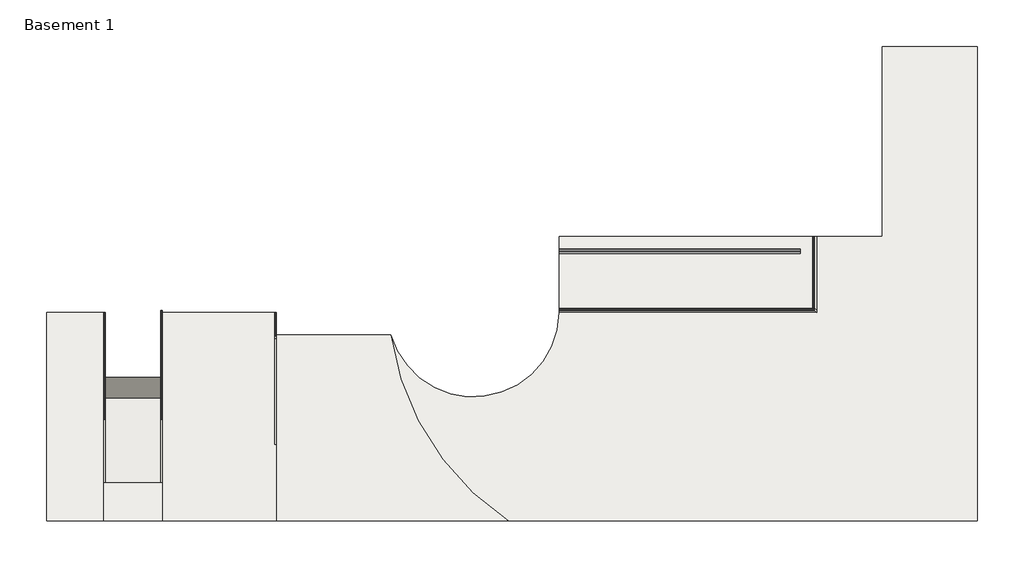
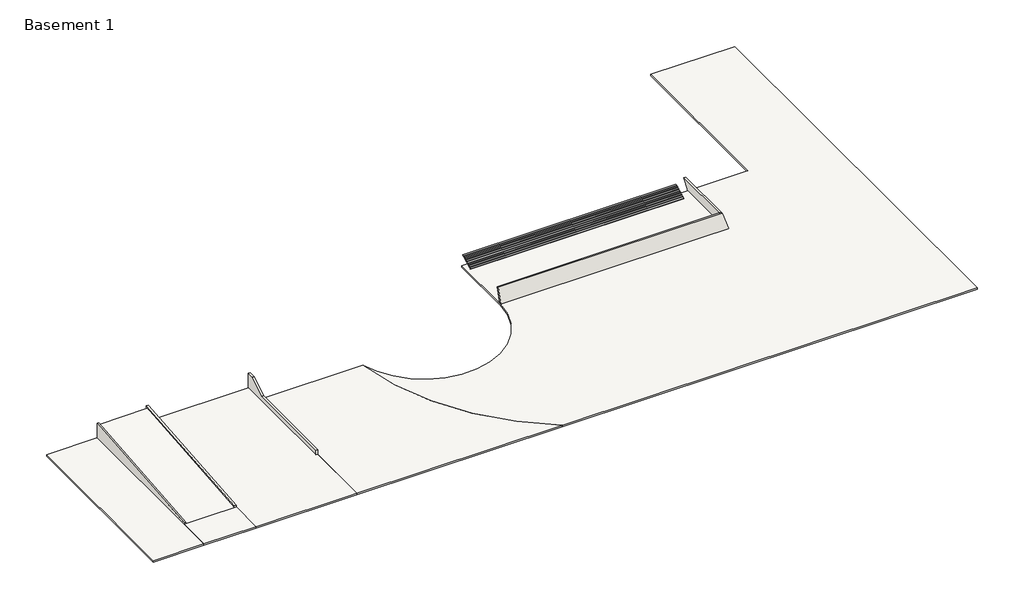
# One storey: 6 slabs, 5 walls, 1 stair flight.
"""IFC4 building model written with IfcOpenShell, lengths in millimetres."""

import ifcopenshell
import ifcopenshell.guid

model = None  # the IFC model being written
_history = None  # IfcOwnerHistory: only IFC2X3 demands one
_inside = {}  # id of a spatial element -> (the spatial element, [elements in it])
_under = {}  # id of a project, library or spatial element -> (it, [spatial elements below it])
_declared = {}  # id of a project -> (the project, [libraries it declares])
_typed = {}  # id of a type object -> (the type object, [elements of that type])
_made_of = {}  # id of a material, layer set ... -> (it, [elements and type objects made of it])


def new_model(schema):
    """Start an empty IFC model of exactly this schema.

    Asked for "IFC4X3", IfcOpenShell would pick the latest addendum, in which some entities
    have other attributes; the version numbers below select the first issue.
    IFC2X3 requires an IfcOwnerHistory on every rooted entity: one is made here for all.
    """
    global model, _history
    if schema == "IFC4X3":
        model = ifcopenshell.file(schema_version=(4, 3, 0, 0))
    else:
        model = ifcopenshell.file(schema=schema)
    _inside.clear()
    _under.clear()
    _declared.clear()
    _typed.clear()
    _made_of.clear()
    _history = None
    if model.schema == "IFC2X3":
        org = make("IfcOrganization", Name="unknown")
        user = make(
            "IfcPersonAndOrganization",
            ThePerson=make("IfcPerson", FamilyName="unknown"),
            TheOrganization=org,
        )
        app = make(
            "IfcApplication",
            ApplicationDeveloper=org,
            Version="unknown",
            ApplicationFullName="unknown",
            ApplicationIdentifier="unknown",
        )
        _history = make(
            "IfcOwnerHistory",
            OwningUser=user,
            OwningApplication=app,
            ChangeAction="ADDED",
            CreationDate=0,
        )
    return model


def make(cls, **values):
    """One entity of the class cls with the attributes given. An attribute that is None is left unset."""
    return model.create_entity(
        cls, **{name: value for name, value in values.items() if value is not None}
    )


def rooted(cls, **values):
    """An entity with a GlobalId (a new one), such as an element, a storey or a relation."""
    return make(cls, GlobalId=ifcopenshell.guid.new(), OwnerHistory=_history, **values)


def si_unit(unit_type, name, prefix=None):
    """IfcSIUnit, for example si_unit("LENGTHUNIT", "METRE", prefix="MILLI")."""
    return make("IfcSIUnit", UnitType=unit_type, Prefix=prefix, Name=name)


def assignment(units):
    """IfcUnitAssignment: the units of a project."""
    return None if units is None else make("IfcUnitAssignment", Units=units)


def point(xyz):
    """IfcCartesianPoint."""
    return None if xyz is None else make("IfcCartesianPoint", Coordinates=xyz)


def direction(xyz):
    """IfcDirection."""
    return None if xyz is None else make("IfcDirection", DirectionRatios=xyz)


def frame(location, z_axis=None, x_axis=None):
    """IfcAxis2Placement3D, a coordinate frame: its origin and axes. An axis left out is left unset."""
    return make(
        "IfcAxis2Placement3D",
        Location=point(location),
        Axis=direction(z_axis),
        RefDirection=direction(x_axis),
    )


def frame_2d(location, x_axis=None):
    """IfcAxis2Placement2D, a coordinate frame in the plane: its origin and x axis."""
    return make(
        "IfcAxis2Placement2D", Location=point(location), RefDirection=direction(x_axis)
    )


def origin():
    """The frame at (0, 0, 0) with its axes left unset."""
    return frame((0.0, 0.0, 0.0))


def place(relative_to, where):
    """IfcLocalPlacement: puts the frame where relative to a parent placement (None: the world)."""
    return make(
        "IfcLocalPlacement", PlacementRelTo=relative_to, RelativePlacement=where
    )


def context(
    kind, dimensions, precision=None, world=None, true_north=None, identifier=None
):
    """IfcGeometricRepresentationContext, for example the 3D "Model" context."""
    return make(
        "IfcGeometricRepresentationContext",
        ContextIdentifier=identifier,
        ContextType=kind,
        CoordinateSpaceDimension=dimensions,
        Precision=precision,
        WorldCoordinateSystem=world,
        TrueNorth=true_north,
    )


def project(units=None, contexts=None):
    """IfcProject with its units and contexts."""
    return rooted(
        "IfcProject",
        Name="project",
        RepresentationContexts=contexts,
        UnitsInContext=assignment(units),
    )


def spatial(cls, under=None, at=None, **own):
    """A site, building, storey or space (cls), placed at a placement, below another one or the project."""
    s = rooted(cls, ObjectPlacement=at, **own)
    if under is not None:
        _under.setdefault(under.id(), (under, []))[1].append(s)
    return s


def polyline(points):
    """IfcPolyline through the points."""
    return make("IfcPolyline", Points=[point(p) for p in points])


def circle_curve(where, radius):
    """IfcCircle in the frame where."""
    return make("IfcCircle", Position=where, Radius=radius)


def ellipse_curve(where, semi_axis1, semi_axis2):
    """IfcEllipse in the frame where."""
    return make(
        "IfcEllipse", Position=where, SemiAxis1=semi_axis1, SemiAxis2=semi_axis2
    )


def trimmed(basis, trim1, trim2, sense, master):
    """IfcTrimmedCurve: the piece of a basis curve between two trims."""
    return make(
        "IfcTrimmedCurve",
        BasisCurve=basis,
        Trim1=trim1,
        Trim2=trim2,
        SenseAgreement=sense,
        MasterRepresentation=master,
    )


def segment(curve, same_sense, transition):
    """IfcCompositeCurveSegment."""
    return make(
        "IfcCompositeCurveSegment",
        Transition=transition,
        SameSense=same_sense,
        ParentCurve=curve,
    )


def composite_curve(segments, self_intersect=None):
    """IfcCompositeCurve: segments joined end to end."""
    return make("IfcCompositeCurve", Segments=segments, SelfIntersect=self_intersect)


def outline(outer, holes=None, kind="AREA"):
    """IfcArbitraryClosedProfileDef: a profile drawn as a closed curve; with holes, ...WithVoids."""
    if holes is None:
        return make("IfcArbitraryClosedProfileDef", ProfileType=kind, OuterCurve=outer)
    return make(
        "IfcArbitraryProfileDefWithVoids",
        ProfileType=kind,
        OuterCurve=outer,
        InnerCurves=holes,
    )


def extrude(swept, where, along, depth):
    """IfcExtrudedAreaSolid: the profile swept, set in the frame where, extruded along a direction by depth."""
    return make(
        "IfcExtrudedAreaSolid",
        SweptArea=swept,
        Position=where,
        ExtrudedDirection=direction(along),
        Depth=depth,
    )


def faces_of(points, faces, orient=None, outer=None):
    """IfcFace entities. A face is a list of loops; a loop is a list of indices into points, from 0.

    orient and outer hold one flag for each loop. By default every Orientation is true, the
    first loop of a face is its IfcFaceOuterBound and the others are IfcFaceBound.
    """
    made = []
    for i, loops in enumerate(faces):
        bounds = []
        for j, loop in enumerate(loops):
            is_outer = j == 0 if outer is None else outer[i][j]
            bounds.append(
                make(
                    "IfcFaceOuterBound" if is_outer else "IfcFaceBound",
                    Bound=make("IfcPolyLoop", Polygon=[points[k] for k in loop]),
                    Orientation=True if orient is None else orient[i][j],
                )
            )
        made.append(make("IfcFace", Bounds=bounds))
    return made


def faceted_brep(points, faces, orient=None, outer=None, voids=None):
    """IfcFacetedBrep: a solid bounded by flat faces; with voids (closed shells), ...WithVoids."""
    shared = [point(p) for p in points]
    hull = make("IfcClosedShell", CfsFaces=faces_of(shared, faces, orient, outer))
    if voids is None:
        return make("IfcFacetedBrep", Outer=hull)
    return make(
        "IfcFacetedBrepWithVoids",
        Outer=hull,
        Voids=[
            make(cls, CfsFaces=faces_of(shared, fs, o, b)) for cls, fs, o, b in voids
        ],
    )


def shape(context_of_items, identifier, shape_type, items):
    """IfcShapeRepresentation: the items that make up one representation, for example the "Body"."""
    return make(
        "IfcShapeRepresentation",
        ContextOfItems=context_of_items,
        RepresentationIdentifier=identifier,
        RepresentationType=shape_type,
        Items=items,
    )


def made_of(thing, what):
    """Note that an element or type object is made of a material, layer set ...; save() writes the relation."""
    if what is not None:
        _made_of.setdefault(what.id(), (what, []))[1].append(thing)
    return thing


def element(
    cls,
    number,
    at=None,
    inside=None,
    cuts=None,
    type_object=None,
    material=None,
    context=None,
    identifier="Body",
    shape_type=None,
    held_by="IfcProductDefinitionShape",
    body=None,
    shapes=None,
    **own,
):
    """One element of the class cls, such as IfcWall. Its Tag is "e" and its number.

    at: its placement. inside: the storey or other place that contains it. cuts: it is an
    opening in that element (IfcRelVoidsElement). A single representation is given by context,
    identifier, shape_type and body (its items); several are given by shapes. held_by: the class
    of the entity that holds the representations. save() writes the other relations.
    """
    e = rooted(cls, Tag="e%d" % number, ObjectPlacement=at, **own)
    if body is not None:
        shapes = [shape(context, identifier, shape_type, body)]
    if shapes is not None:
        e.Representation = make(held_by, Representations=shapes)
    if inside is not None:
        _inside.setdefault(inside.id(), (inside, []))[1].append(e)
    if cuts is not None:
        rooted(
            "IfcRelVoidsElement", RelatingBuildingElement=cuts, RelatedOpeningElement=e
        )
    if type_object is not None:
        _typed.setdefault(type_object.id(), (type_object, []))[1].append(e)
    return made_of(e, material)


def aggregate(whole, parts):
    """IfcRelAggregates: a whole, such as a stair, and the parts it consists of."""
    return rooted("IfcRelAggregates", RelatingObject=whole, RelatedObjects=parts)


def save(model, path):
    """Write the relations noted so far, then the file.

    IfcRelAggregates (storeys below a building ...), IfcRelContainedInSpatialStructure (elements
    in a storey), IfcRelDefinesByType, IfcRelAssociatesMaterial and IfcRelDeclares: one each for
    every whole, place, type object, material and project.
    """
    for whole, parts in _under.values():
        aggregate(whole, parts)
    for where, things in _inside.values():
        rooted(
            "IfcRelContainedInSpatialStructure",
            RelatedElements=things,
            RelatingStructure=where,
        )
    for kind, things in _typed.values():
        rooted("IfcRelDefinesByType", RelatedObjects=things, RelatingType=kind)
    for what, things in _made_of.values():
        rooted("IfcRelAssociatesMaterial", RelatedObjects=things, RelatingMaterial=what)
    for by, libraries in _declared.values():
        rooted("IfcRelDeclares", RelatingContext=by, RelatedDefinitions=libraries)
    model.write(path)


def plane_surface(at):
    """IfcPlane: the flat surface through the origin of the frame at, square to its z axis."""
    return make("IfcPlane", Position=at)


def revolved_surface(curve, axis_point, axis_direction):
    """IfcSurfaceOfRevolution: the curve turned about the line through axis_point along axis_direction."""
    return make(
        "IfcSurfaceOfRevolution",
        SweptCurve=make("IfcArbitraryOpenProfileDef", ProfileType="CURVE", Curve=curve),
        AxisPosition=make("IfcAxis1Placement", Location=point(axis_point), Axis=direction(axis_direction)),
    )


def advanced_brep(points, edges, surfaces, faces):
    """IfcAdvancedBrep: a solid bounded by faces that lie on surfaces and meet in shared edges.

    An edge is (start, end): straight between two places in points (the first is 0);
    or (start, end, curve); or (start, end, curve, False) where it runs against its curve.
    A face is (place in surfaces, loops), or (place, loops, False) where it looks against
    its surface's normal. A loop lists edges by number (the first is 1), with a minus sign
    where the edge is run from its end to its start. The first loop is the outer one.
    """
    corners = [point(p) for p in points]
    vertices = [make("IfcVertexPoint", VertexGeometry=c) for c in corners]
    made = []
    for start, end, *more in edges:
        made.append(
            make(
                "IfcEdgeCurve",
                EdgeStart=vertices[start],
                EdgeEnd=vertices[end],
                EdgeGeometry=more[0] if more else make("IfcPolyline", Points=[corners[start], corners[end]]),
                SameSense=more[1] if len(more) > 1 else True,
            )
        )
    hull = []
    for where, loops, *sense in faces:
        bounds = []
        for j, loop in enumerate(loops):
            ring = [make("IfcOrientedEdge", EdgeElement=made[abs(k) - 1], Orientation=k > 0) for k in loop]
            bounds.append(
                make(
                    "IfcFaceOuterBound" if j == 0 else "IfcFaceBound",
                    Bound=make("IfcEdgeLoop", EdgeList=ring),
                    Orientation=True,
                )
            )
        hull.append(make("IfcAdvancedFace", Bounds=bounds, FaceSurface=surfaces[where], SameSense=sense[0] if sense else True))
    return make("IfcAdvancedBrep", Outer=make("IfcClosedShell", CfsFaces=hull))


model = new_model("IFC4")

# Units and contexts
model_context = context("Model", 3, world=origin())
ifc_project = project(units=[si_unit("LENGTHUNIT", "METRE", prefix="MILLI")], contexts=[model_context])

# Site, building, storey
site = spatial("IfcSite", under=ifc_project)
building = spatial("IfcBuilding", under=site)
storey = spatial("IfcBuildingStorey", under=building, Name="Basement 1", Elevation=-2590.8)

# Slabs
placement = place(None, origin())
element("IfcSlab", 1, ObjectType="a_drive", at=placement, inside=storey, context=model_context, shape_type="SweptSolid", body=[
    extrude(outline(polyline([(19188.911889, -458.4117136), (-8130.1793721, -2896.8117136), (-8130.1793721, -2590.8), (19188.911889, -152.4), (19188.911889, -458.4117136)])), frame((-52722.4307976, 0.0, 0.0), z_axis=(1.0, 0.0, 0.0), x_axis=(0.0, 1.0, 0.0)), (0.0, 0.0, 1.0), 8839.2),
])
element("IfcSlab", 2, ObjectType="a_drive", at=placement, inside=storey, context=model_context, shape_type="SweptSolid", body=[
    extrude(outline(polyline([(-53027.2307976, -8130.1793721), (-43578.4307976, -8130.1793721), (-43578.4307976, -14339.088111), (-53027.2307976, -14339.088111), (-53027.2307976, -8130.1793721)])), frame((0.0, 0.0, -2895.6), z_axis=(0.0, 0.0, 1.0), x_axis=(1.0, 0.0, 0.0)), (0.0, 0.0, 1.0), 304.8),
])
element("IfcSlab", 3, ObjectType="a_site field", at=placement, inside=storey, context=model_context, shape_type="SweptSolid", body=[
    extrude(outline(composite_curve([segment(polyline([(20124.7692024, 31380.911889), (71940.7692024, 31380.911889), (71940.7692024, 61860.911889), (87180.7692024, 61860.911889), (87180.7692024, -14339.088111), (11898.6110424, -14339.088111)]), True, "CONTINUOUS"), segment(trimmed(circle_curve(frame_2d((35078.8556976, 21137.4265857)), 42378.1410317), [point((11898.6110424, -14339.088111))], [point((-6930.2202358, 15556.7118891))], False, "CARTESIAN"), True, "CONTINUOUS"), segment(trimmed(circle_curve(frame_2d((6325.7581451, 19397.6292514)), 13801.2176644), [point((-6930.2202358, 15556.7118891))], [point((20124.7692024, 19150.8442002))], True, "CARTESIAN"), True, "CONTINUOUS"), segment(polyline([(20124.7692024, 19150.8442002), (20124.7692024, 31380.911889)]), True, "CONTINUOUS")], self_intersect=False)), frame((0.0, 0.0, -2895.6), z_axis=(0.0, 0.0, 1.0), x_axis=(1.0, 0.0, 0.0)), (0.0, 0.0, 1.0), 304.8),
])
element("IfcSlab", 4, ObjectType="a_site field", at=placement, inside=storey, context=model_context, shape_type="SweptSolid", body=[
    extrude(outline(polyline([(-62171.2307976, 19188.911889), (-53027.2307976, 19188.911889), (-53027.2307976, -14339.088111), (-62171.2307976, -14339.088111), (-62171.2307976, 19188.911889)])), frame((0.0, 0.0, -2895.6), z_axis=(0.0, 0.0, 1.0), x_axis=(1.0, 0.0, 0.0)), (0.0, 0.0, 1.0), 304.8),
])
element("IfcSlab", 5, ObjectType="a_site field", at=placement, inside=storey, context=model_context, shape_type="SweptSolid", body=[
    extrude(outline(polyline([(-43578.4307976, 19188.911889), (-25290.4307976, 19188.911889), (-25290.4307976, -14339.088111), (-43578.4307976, -14339.088111), (-43578.4307976, 19188.911889)])), frame((0.0, 0.0, -2895.6), z_axis=(0.0, 0.0, 1.0), x_axis=(1.0, 0.0, 0.0)), (0.0, 0.0, 1.0), 304.8),
])
element("IfcSlab", 6, ObjectType="a_site paving", at=placement, inside=storey, context=model_context, shape_type="SweptSolid", body=[
    extrude(outline(composite_curve([segment(polyline([(-25290.4307976, 15556.711889), (-6930.2202358, 15556.711889)]), True, "CONTINUOUS"), segment(trimmed(circle_curve(frame_2d((35907.4785274, 21659.3058951)), 43270.1986236), [point((-6930.2202358, 15556.711889))], [point((11898.6110424, -14339.088111))], True, "CARTESIAN"), True, "CONTINUOUS"), segment(polyline([(11898.6110424, -14339.088111), (-25290.4307976, -14339.088111), (-25290.4307976, 15556.711889)]), True, "CONTINUOUS")], self_intersect=False)), frame((0.0, 0.0, -2895.6), z_axis=(0.0, 0.0, 1.0), x_axis=(1.0, 0.0, 0.0)), (0.0, 0.0, 1.0), 304.8),
])

# Stair flight
element("IfcStairFlight", 7, ObjectType="3/4\" Nosing", at=placement, inside=storey, context=model_context, shape_type="Brep", body=[
    faceted_brep([(58732.7692024, 28637.711889, -1507.0666667), (20124.7692024, 28637.711889, -1507.0666667), (20124.7692024, 28656.761889, -1676.4), (58732.7692024, 28656.761889, -1676.4), (58732.7692024, 28961.561889, -1507.0666667), (20124.7692024, 28961.561889, -1507.0666667), (20124.7692024, 28961.561889, -1579.7080571), (20124.7692024, 28787.5163918, -1676.4), (58732.7692024, 28787.5163918, -1676.4), (58732.7692024, 28961.561889, -1579.7080571), (20124.7692024, 28942.511889, -1337.7333333), (58732.7692024, 28942.511889, -1337.7333333), (58732.7692024, 29266.361889, -1337.7333333), (20124.7692024, 29266.361889, -1337.7333333), (20124.7692024, 29266.361889, -1410.3747238), (58732.7692024, 29266.361889, -1410.3747238), (20124.7692024, 29571.161889, -1241.0413904), (20124.7692024, 29875.961889, -1071.7080571), (20124.7692024, 30180.761889, -902.3747238), (20124.7692024, 30485.561889, -733.0413904), (20124.7692024, 30790.361889, -563.7080571), (20124.7692024, 31076.111889, -404.9580571), (58732.7692024, 31076.111889, -404.9580571), (58732.7692024, 30790.361889, -563.7080571), (58732.7692024, 30485.561889, -733.0413904), (58732.7692024, 30180.761889, -902.3747238), (58732.7692024, 29875.961889, -1071.7080571), (58732.7692024, 29571.161889, -1241.0413904), (20124.7692024, 29247.311889, -1168.4), (58732.7692024, 29247.311889, -1168.4), (58732.7692024, 29571.161889, -1168.4), (20124.7692024, 29571.161889, -1168.4), (20124.7692024, 29552.111889, -999.0666667), (58732.7692024, 29552.111889, -999.0666667), (58732.7692024, 29875.961889, -999.0666667), (20124.7692024, 29875.961889, -999.0666667), (20124.7692024, 29856.911889, -829.7333333), (58732.7692024, 29856.911889, -829.7333333), (58732.7692024, 30180.761889, -829.7333333), (20124.7692024, 30180.761889, -829.7333333), (20124.7692024, 30161.711889, -660.4), (58732.7692024, 30161.711889, -660.4), (58732.7692024, 30485.561889, -660.4), (20124.7692024, 30485.561889, -660.4), (20124.7692024, 30466.511889, -491.0666667), (58732.7692024, 30466.511889, -491.0666667), (58732.7692024, 30790.361889, -491.0666667), (20124.7692024, 30790.361889, -491.0666667), (20124.7692024, 30771.311889, -321.7333333), (58732.7692024, 30771.311889, -321.7333333), (58732.7692024, 31076.111889, -321.7333333), (20124.7692024, 31076.111889, -321.7333333)], [[[0, 1, 2, 3]], [[1, 0, 4, 5]], [[1, 5, 6, 7, 2]], [[4, 0, 3, 8, 9]], [[10, 11, 12, 13]], [[10, 13, 14, 6, 5]], [[12, 11, 4, 9, 15]], [[5, 4, 11, 10]], [[3, 2, 7, 8]], [[8, 7, 6, 14, 16, 17, 18, 19, 20, 21, 22, 23, 24, 25, 26, 27, 15, 9]], [[28, 29, 30, 31]], [[28, 31, 16, 14, 13]], [[30, 29, 12, 15, 27]], [[13, 12, 29, 28]], [[32, 33, 34, 35]], [[32, 35, 17, 16, 31]], [[34, 33, 30, 27, 26]], [[31, 30, 33, 32]], [[36, 37, 38, 39]], [[36, 39, 18, 17, 35]], [[38, 37, 34, 26, 25]], [[35, 34, 37, 36]], [[40, 41, 42, 43]], [[40, 43, 19, 18, 39]], [[42, 41, 38, 25, 24]], [[39, 38, 41, 40]], [[44, 45, 46, 47]], [[44, 47, 20, 19, 43]], [[46, 45, 42, 24, 23]], [[43, 42, 45, 44]], [[48, 49, 50, 51]], [[48, 51, 21, 20, 47]], [[50, 49, 46, 23, 22]], [[51, 50, 22, 21]], [[47, 46, 49, 48]]]),
])

# Walls
element("IfcWall", 8, ObjectType="Generic - 12\"", at=placement, inside=storey, context=model_context, shape_type="Brep", body=[
    faceted_brep([(-52722.4307976, -8130.1793721, -2590.8), (-52722.4307976, 19188.911889, -2590.8), (-52722.4307976, 19188.911889, 152.4), (-52722.4307976, 19188.911889, 153.6117136), (-52722.4307976, -8130.1793721, -2284.7882864), (-53027.2307976, -8130.1793721, -2590.8), (-53027.2307976, -8130.1793721, -2284.7882864), (-53027.2307976, 19188.911889, 153.6117136), (-53027.2307976, 19188.911889, -2590.8)], [[[0, 1, 2, 3, 4]], [[5, 6, 7, 8]], [[1, 0, 5, 8]], [[4, 3, 7, 6]], [[0, 4, 6, 5]], [[3, 2, 1, 8, 7]]]),
])
element("IfcWall", 9, ObjectType="Generic - 12\"", at=placement, inside=storey, context=model_context, shape_type="Brep", body=[
    faceted_brep([(-43578.4307976, -8130.1793721, -2590.8), (-43578.4307976, 19493.711889, -2590.8), (-43578.4307976, 19493.711889, -152.4), (-43578.4307976, 19493.711889, 152.4), (-43578.4307976, 19493.711889, 180.8170226), (-43578.4307976, -8130.1793721, -2284.7882864), (-43883.2307976, -8130.1793721, -2590.8), (-43883.2307976, -8130.1793721, -2284.7882864), (-43883.2307976, 19493.711889, 180.8170226), (-43883.2307976, 19493.711889, 152.4), (-43883.2307976, 19493.711889, -152.4), (-43883.2307976, 19493.711889, -2590.8)], [[[0, 1, 2, 3, 4, 5]], [[6, 7, 8, 9, 10, 11]], [[1, 0, 6, 11]], [[5, 4, 8, 7]], [[0, 5, 7, 6]], [[4, 3, 2, 1, 11, 10, 9, 8]]]),
])
element("IfcWall", 10, ObjectType="Generic - 12\"", at=placement, inside=storey, context=model_context, shape_type="SweptSolid", body=[
    extrude(outline(polyline([(-2034.1793721, -2590.8), (-2034.1793721, -1676.4), (14963.2558665, -1676.4), (17896.9558665, 152.4), (19188.911889, 152.4), (19188.911889, -2590.8), (-2034.1793721, -2590.8)])), frame((-25595.2307976, 0.0, 0.0), z_axis=(1.0, 0.0, 0.0), x_axis=(0.0, 1.0, 0.0)), (0.0, 0.0, 1.0), 304.8),
])
element("IfcWall", 11, ObjectType="a_panel enamel", at=placement, inside=storey, context=model_context, shape_type="AdvancedBrep", body=[
    advanced_brep(
    [(61430.5452923, 19499.0879789, -2590.8), (61430.5452923, 19183.5357991, -2590.8), (20123.8667318, 19183.5357991, -2590.8), (20124.7692024, 19341.311889, -2590.8), (20124.7692024, 19499.0879789, -2590.8), (61114.9931125, 19499.0879789, -2590.8), (60695.5070676, 20234.1262036, 152.4), (20124.7692024, 20234.1262036, 152.4), (60379.9548878, 20234.1262036, 152.4), (60695.5070676, 19918.5740238, 152.4), (20124.7692024, 19918.5740238, 152.4), (20124.7692024, 19341.311889, -2001.9716163)],
    [
        (0, 1),
        (1, 2),
        (2, 3, circle_curve(frame((6332.5692024, 19341.311889, -2590.8), z_axis=(0.0, 0.0, 1.0), x_axis=(0.0, -1.0, 0.0)), 13792.2)),
        (3, 4),
        (4, 5),
        (5, 0),
        (6, 0),
        (4, 7),
        (7, 8),
        (8, 6),
        (9, 6),
        (7, 10),
        (10, 9),
        (1, 9),
        (10, 11),
        (11, 2, ellipse_curve(frame((6332.5692024, 19341.311889, -2001.9716163), z_axis=(0.0, 0.9659258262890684, -0.25881904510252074), x_axis=(0.0, 0.25881904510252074, 0.9659258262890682)), 53288.9687254, 13792.2)),
        (11, 3),
    ],
    [
        plane_surface(frame((61272.7692024, 19183.5357991, -2590.8), z_axis=(0.0, 0.0, -1.0), x_axis=(-1.0, 0.0, 0.0))),
        plane_surface(frame((61272.7692024, 19499.0879789, -2590.8), z_axis=(0.0, 0.9659258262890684, -0.25881904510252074), x_axis=(-1.0, 0.0, 0.0))),
        plane_surface(frame((61272.7692024, 20234.1262036, 152.4), z_axis=(0.0, 0.0, 1.0), x_axis=(-1.0, 0.0, 0.0))),
        plane_surface(frame((61272.7692024, 19918.5740238, 152.4), z_axis=(0.0, -0.9659258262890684, 0.25881904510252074), x_axis=(-1.0, 0.0, 0.0))),
        plane_surface(frame((60695.5070676, 31228.511889, 152.4), z_axis=(0.9659258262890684, 0.0, 0.25881904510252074), x_axis=(0.0, -1.0, 0.0))),
        revolved_surface(polyline([(6332.5692024, 5549.111889, 49471.21953187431), (6332.5692024, 5549.111889, -53475.162764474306)]), (6332.5692024, 19341.311889, -2727.96), (0.0, 0.0, 1.0)),
        plane_surface(frame((20124.7692024, 39991.511889, -2727.96), z_axis=(-1.0, 0.0, 0.0), x_axis=(0.0, -1.0, 0.0))),
    ],
    [
        (0, [[1, 2, 3, 4, 5, 6]]),
        (1, [[7, -6, -5, 8, 9, 10]]),
        (2, [[11, -10, -9, 12, 13]]),
        (3, [[14, -13, 15, 16, -2]]),
        (4, [[-1, -7, -11, -14]]),
        (5, [[-16, 17, -3]]),
        (6, [[-15, -12, -8, -4, -17]]),
    ],
),
])
element("IfcWall", 12, ObjectType="a_panel enamel", at=placement, inside=storey, context=model_context, shape_type="Brep", body=[
    faceted_brep([(60379.9548878, 31380.911889, 152.4), (60543.2967155, 31380.911889, -457.2), (61114.9931125, 31380.911889, -2590.8), (61114.9931125, 31076.111889, -2590.8), (61114.9931125, 19499.0879789, -2590.8), (60379.9548878, 20234.1262036, 152.4), (61430.5452923, 31380.911889, -2590.8), (60695.5070676, 31380.911889, 152.4), (60695.5070676, 31076.111889, 152.4), (60695.5070676, 20234.1262036, 152.4), (61430.5452923, 19499.0879789, -2590.8), (61430.5452923, 31076.111889, -2590.8), (61272.7692024, 31380.911889, -2590.8)], [[[0, 1, 2, 3, 4, 5]], [[6, 7, 8, 9, 10, 11]], [[2, 12, 6, 11, 10, 4, 3]], [[7, 0, 5, 9, 8]], [[6, 12, 2, 1, 0, 7]], [[10, 9, 5, 4]]]),
])

save(model, "model.ifc")
